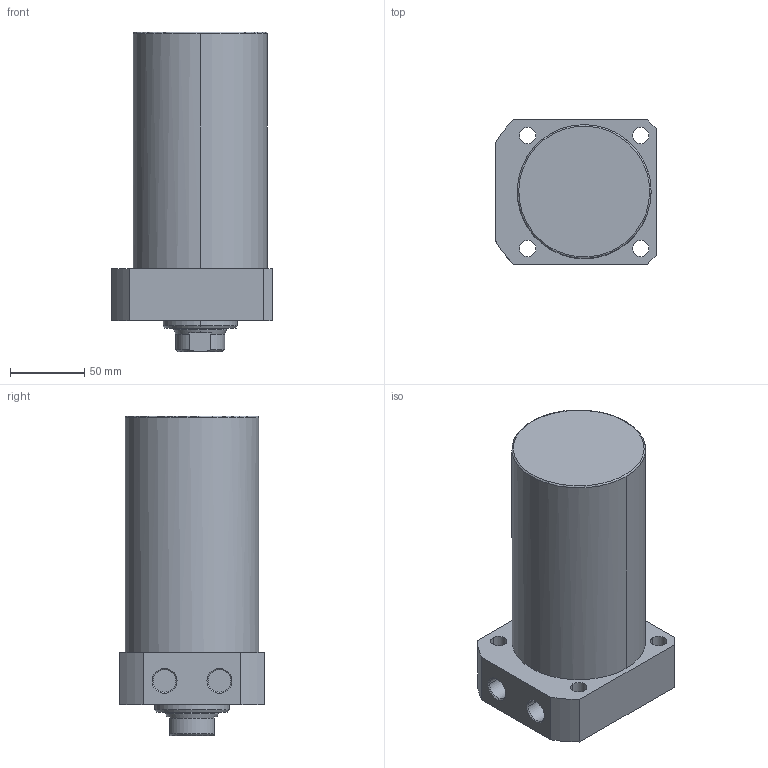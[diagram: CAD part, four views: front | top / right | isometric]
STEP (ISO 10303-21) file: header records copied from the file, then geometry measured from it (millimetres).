
FILE_DESCRIPTION((' '),'2;1');
FILE_NAME( 'TLLR-090CA-115.STEP.stp', '2025-10-24T16:35:18', (' '), ('--- Datakit www.datakit.com---'), ' Datakit CrossCadWare V2024.1 Dec 21 2023', 'Mastercam 2025', ' ');
FILE_SCHEMA(('AUTOMOTIVE_DESIGN { 1 0 10303 214 1 1 1 1 }'));
Length unit declared in the file: millimetre
Products named in the file (1): TLLR-090CA-115
Bounding box: 108 x 97 x 215 mm (x, y, z)
Volume: 1360419.7 mm3; surface area: 90043.6 mm2
Topology: 1 solids, 1 shells, 63 faces, 177 edges, 122 vertices
Faces by surface type: cylinder 28, plane 19, cone 14, torus 2
Entity records: 2172 total; most frequent: CARTESIAN_POINT 409, DIRECTION 400, ORIENTED_EDGE 350, EDGE_CURVE 175, AXIS2_PLACEMENT_3D 169, VERTEX_POINT 122, CIRCLE 105, EDGE_LOOP 79
